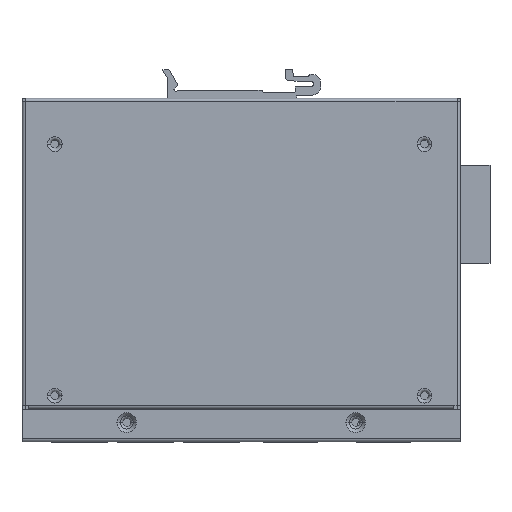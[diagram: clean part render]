
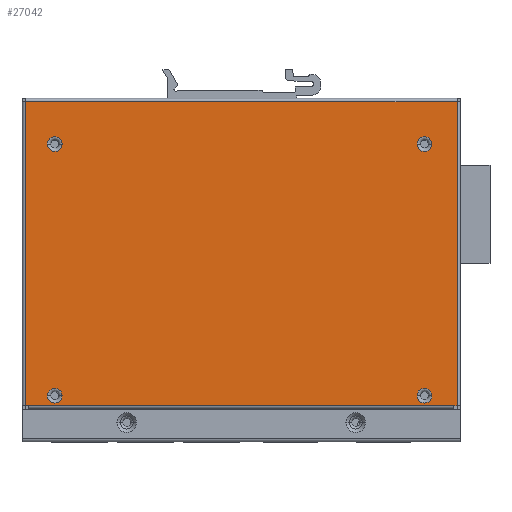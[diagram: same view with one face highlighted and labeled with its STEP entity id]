
A CAD part, front view. The second image highlights one B-rep face of the part: STEP entity #27042.
In plain terms, the highlighted planar face has unit normal (0, -1, 0).
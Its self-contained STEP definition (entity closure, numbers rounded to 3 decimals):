
#3817=DIRECTION('',(1.,0.,0.));
#3818=VECTOR('',#3817,132.);
#3819=CARTESIAN_POINT('',(-66.34,-1.,45.3));
#3820=LINE('',#3819,#3818);
#3825=CARTESIAN_POINT('',(55.66,-1.,32.3));
#3826=DIRECTION('',(0.,1.,0.));
#3827=DIRECTION('',(-1.,0.,0.));
#3828=AXIS2_PLACEMENT_3D('',#3825,#3826,#3827);
#3830=CARTESIAN_POINT('',(55.66,-1.,32.3));
#3831=DIRECTION('',(0.,1.,0.));
#3832=DIRECTION('',(1.,0.,0.));
#3833=AXIS2_PLACEMENT_3D('',#3830,#3831,#3832);
#3835=CARTESIAN_POINT('',(-57.34,-1.,32.3));
#3836=DIRECTION('',(0.,1.,0.));
#3837=DIRECTION('',(-1.,0.,0.));
#3838=AXIS2_PLACEMENT_3D('',#3835,#3836,#3837);
#3840=CARTESIAN_POINT('',(-57.34,-1.,32.3));
#3841=DIRECTION('',(0.,1.,0.));
#3842=DIRECTION('',(1.,0.,0.));
#3843=AXIS2_PLACEMENT_3D('',#3840,#3841,#3842);
#3845=CARTESIAN_POINT('',(55.66,-1.,-44.6));
#3846=DIRECTION('',(0.,1.,0.));
#3847=DIRECTION('',(-1.,0.,0.));
#3848=AXIS2_PLACEMENT_3D('',#3845,#3846,#3847);
#3850=CARTESIAN_POINT('',(55.66,-1.,-44.6));
#3851=DIRECTION('',(0.,1.,0.));
#3852=DIRECTION('',(1.,0.,0.));
#3853=AXIS2_PLACEMENT_3D('',#3850,#3851,#3852);
#3855=CARTESIAN_POINT('',(-57.34,-1.,-44.6));
#3856=DIRECTION('',(0.,1.,0.));
#3857=DIRECTION('',(-1.,0.,0.));
#3858=AXIS2_PLACEMENT_3D('',#3855,#3856,#3857);
#3860=CARTESIAN_POINT('',(-57.34,-1.,-44.6));
#3861=DIRECTION('',(0.,1.,0.));
#3862=DIRECTION('',(1.,0.,0.));
#3863=AXIS2_PLACEMENT_3D('',#3860,#3861,#3862);
#3869=DIRECTION('',(-1.,0.,0.));
#3870=VECTOR('',#3869,1.);
#3871=CARTESIAN_POINT('',(65.66,-1.,-47.7));
#3872=LINE('',#3871,#3870);
#3886=DIRECTION('',(0.,0.,-1.));
#3887=VECTOR('',#3886,93.);
#3888=CARTESIAN_POINT('',(65.66,-1.,45.3));
#3889=LINE('',#3888,#3887);
#11117=DIRECTION('',(-1.,0.,0.));
#11118=VECTOR('',#11117,1.);
#11119=CARTESIAN_POINT('',(-65.34,-1.,-47.7));
#11120=LINE('',#11119,#11118);
#11222=DIRECTION('',(-1.,0.,0.));
#11223=VECTOR('',#11222,130.);
#11224=CARTESIAN_POINT('',(64.66,-1.,-47.7));
#11225=LINE('',#11224,#11223);
#11481=DIRECTION('',(0.,0.,1.));
#11482=VECTOR('',#11481,93.);
#11483=CARTESIAN_POINT('',(-66.34,-1.,-47.7));
#11484=LINE('',#11483,#11482);
#13834=CARTESIAN_POINT('',(55.66,-1.,32.3));
#13835=DIRECTION('',(0.,-1.,0.));
#13836=DIRECTION('',(-1.,0.,0.));
#13837=AXIS2_PLACEMENT_3D('',#13834,#13835,#13836);
#13854=CARTESIAN_POINT('',(55.66,-1.,32.3));
#13855=DIRECTION('',(0.,-1.,0.));
#13856=DIRECTION('',(1.,0.,0.));
#13857=AXIS2_PLACEMENT_3D('',#13854,#13855,#13856);
#13918=CARTESIAN_POINT('',(-57.34,-1.,32.3));
#13919=DIRECTION('',(0.,-1.,0.));
#13920=DIRECTION('',(-1.,0.,0.));
#13921=AXIS2_PLACEMENT_3D('',#13918,#13919,#13920);
#13938=CARTESIAN_POINT('',(-57.34,-1.,32.3));
#13939=DIRECTION('',(0.,-1.,0.));
#13940=DIRECTION('',(1.,0.,0.));
#13941=AXIS2_PLACEMENT_3D('',#13938,#13939,#13940);
#14002=CARTESIAN_POINT('',(55.66,-1.,-44.6));
#14003=DIRECTION('',(0.,-1.,0.));
#14004=DIRECTION('',(-1.,0.,0.));
#14005=AXIS2_PLACEMENT_3D('',#14002,#14003,#14004);
#14022=CARTESIAN_POINT('',(55.66,-1.,-44.6));
#14023=DIRECTION('',(0.,-1.,0.));
#14024=DIRECTION('',(1.,0.,0.));
#14025=AXIS2_PLACEMENT_3D('',#14022,#14023,#14024);
#14086=CARTESIAN_POINT('',(-57.34,-1.,-44.6));
#14087=DIRECTION('',(0.,-1.,0.));
#14088=DIRECTION('',(-1.,0.,0.));
#14089=AXIS2_PLACEMENT_3D('',#14086,#14087,#14088);
#14106=CARTESIAN_POINT('',(-57.34,-1.,-44.6));
#14107=DIRECTION('',(0.,-1.,0.));
#14108=DIRECTION('',(1.,0.,0.));
#14109=AXIS2_PLACEMENT_3D('',#14106,#14107,#14108);
#17651=CARTESIAN_POINT('',(64.66,-1.,-47.7));
#17652=VERTEX_POINT('',#17651);
#17653=CARTESIAN_POINT('',(-65.34,-1.,-47.7));
#17654=VERTEX_POINT('',#17653);
#17697=CARTESIAN_POINT('',(65.66,-1.,-47.7));
#17698=VERTEX_POINT('',#17697);
#17733=CARTESIAN_POINT('',(-66.34,-1.,-47.7));
#17734=VERTEX_POINT('',#17733);
#17781=CARTESIAN_POINT('',(65.66,-1.,45.3));
#17782=VERTEX_POINT('',#17781);
#17783=CARTESIAN_POINT('',(-66.34,-1.,45.3));
#17784=VERTEX_POINT('',#17783);
#17835=CARTESIAN_POINT('',(57.91,-1.,32.299));
#17836=CARTESIAN_POINT('',(57.91,-1.,32.337));
#17837=VERTEX_POINT('',#17835);
#17838=VERTEX_POINT('',#17836);
#17839=CARTESIAN_POINT('',(53.41,-1.,32.301));
#17840=VERTEX_POINT('',#17839);
#17887=CARTESIAN_POINT('',(-55.09,-1.,32.299));
#17888=CARTESIAN_POINT('',(-55.09,-1.,32.337));
#17889=VERTEX_POINT('',#17887);
#17890=VERTEX_POINT('',#17888);
#17891=CARTESIAN_POINT('',(-59.59,-1.,32.301));
#17892=VERTEX_POINT('',#17891);
#17893=CARTESIAN_POINT('',(53.41,-1.,32.263));
#17894=VERTEX_POINT('',#17893);
#17941=CARTESIAN_POINT('',(57.91,-1.,-44.601));
#17942=CARTESIAN_POINT('',(57.91,-1.,-44.563));
#17943=VERTEX_POINT('',#17941);
#17944=VERTEX_POINT('',#17942);
#17945=CARTESIAN_POINT('',(53.41,-1.,-44.599));
#17946=VERTEX_POINT('',#17945);
#17947=CARTESIAN_POINT('',(-59.59,-1.,32.263));
#17948=VERTEX_POINT('',#17947);
#18003=CARTESIAN_POINT('',(-55.09,-1.,-44.601));
#18004=CARTESIAN_POINT('',(-55.09,-1.,-44.563));
#18005=VERTEX_POINT('',#18003);
#18006=VERTEX_POINT('',#18004);
#18007=CARTESIAN_POINT('',(-59.59,-1.,-44.599));
#18008=VERTEX_POINT('',#18007);
#18009=CARTESIAN_POINT('',(53.41,-1.,-44.637));
#18010=VERTEX_POINT('',#18009);
#18073=CARTESIAN_POINT('',(-59.59,-1.,-44.637));
#18074=VERTEX_POINT('',#18073);
#26984=CARTESIAN_POINT('',(0.,-1.,0.));
#26985=DIRECTION('',(0.,1.,0.));
#26986=DIRECTION('',(1.,0.,0.));
#26987=AXIS2_PLACEMENT_3D('',#26984,#26985,#26986);
#26988=PLANE('',#26987);
#26990=ORIENTED_EDGE('',*,*,#26989,.T.);
#26992=ORIENTED_EDGE('',*,*,#26991,.T.);
#26994=ORIENTED_EDGE('',*,*,#26993,.T.);
#26996=ORIENTED_EDGE('',*,*,#26995,.T.);
#26997=ORIENTED_EDGE('',*,*,#26969,.T.);
#26999=ORIENTED_EDGE('',*,*,#26998,.T.);
#27000=EDGE_LOOP('',(#26990,#26992,#26994,#26996,#26997,#26999));
#27001=FACE_OUTER_BOUND('',#27000,.F.);
#27003=ORIENTED_EDGE('',*,*,#27002,.F.);
#27005=ORIENTED_EDGE('',*,*,#27004,.T.);
#27007=ORIENTED_EDGE('',*,*,#27006,.F.);
#27009=ORIENTED_EDGE('',*,*,#27008,.T.);
#27010=EDGE_LOOP('',(#27003,#27005,#27007,#27009));
#27011=FACE_BOUND('',#27010,.F.);
#27013=ORIENTED_EDGE('',*,*,#27012,.F.);
#27015=ORIENTED_EDGE('',*,*,#27014,.T.);
#27017=ORIENTED_EDGE('',*,*,#27016,.F.);
#27019=ORIENTED_EDGE('',*,*,#27018,.T.);
#27020=EDGE_LOOP('',(#27013,#27015,#27017,#27019));
#27021=FACE_BOUND('',#27020,.F.);
#27023=ORIENTED_EDGE('',*,*,#27022,.F.);
#27025=ORIENTED_EDGE('',*,*,#27024,.T.);
#27027=ORIENTED_EDGE('',*,*,#27026,.F.);
#27029=ORIENTED_EDGE('',*,*,#27028,.T.);
#27030=EDGE_LOOP('',(#27023,#27025,#27027,#27029));
#27031=FACE_BOUND('',#27030,.F.);
#27033=ORIENTED_EDGE('',*,*,#27032,.F.);
#27035=ORIENTED_EDGE('',*,*,#27034,.T.);
#27037=ORIENTED_EDGE('',*,*,#27036,.F.);
#27039=ORIENTED_EDGE('',*,*,#27038,.T.);
#27040=EDGE_LOOP('',(#27033,#27035,#27037,#27039));
#27041=FACE_BOUND('',#27040,.F.);
#27042=ADVANCED_FACE('',(#27001,#27011,#27021,#27031,#27041),#26988,.F.);
#3829=CIRCLE('',#3828,2.25);
#3834=CIRCLE('',#3833,2.25);
#3839=CIRCLE('',#3838,2.25);
#3844=CIRCLE('',#3843,2.25);
#3849=CIRCLE('',#3848,2.25);
#3854=CIRCLE('',#3853,2.25);
#3859=CIRCLE('',#3858,2.25);
#3864=CIRCLE('',#3863,2.25);
#13838=CIRCLE('',#13837,2.25);
#13858=CIRCLE('',#13857,2.25);
#13922=CIRCLE('',#13921,2.25);
#13942=CIRCLE('',#13941,2.25);
#14006=CIRCLE('',#14005,2.25);
#14026=CIRCLE('',#14025,2.25);
#14090=CIRCLE('',#14089,2.25);
#14110=CIRCLE('',#14109,2.25);
#26969=EDGE_CURVE('',#17784,#17782,#3820,.T.);
#26989=EDGE_CURVE('',#17698,#17652,#3872,.T.);
#26991=EDGE_CURVE('',#17652,#17654,#11225,.T.);
#26993=EDGE_CURVE('',#17654,#17734,#11120,.T.);
#26995=EDGE_CURVE('',#17734,#17784,#11484,.T.);
#26998=EDGE_CURVE('',#17782,#17698,#3889,.T.);
#27002=EDGE_CURVE('',#17840,#17838,#3829,.T.);
#27004=EDGE_CURVE('',#17840,#17894,#13838,.T.);
#27006=EDGE_CURVE('',#17837,#17894,#3834,.T.);
#27008=EDGE_CURVE('',#17837,#17838,#13858,.T.);
#27012=EDGE_CURVE('',#17892,#17890,#3839,.T.);
#27014=EDGE_CURVE('',#17892,#17948,#13922,.T.);
#27016=EDGE_CURVE('',#17889,#17948,#3844,.T.);
#27018=EDGE_CURVE('',#17889,#17890,#13942,.T.);
#27022=EDGE_CURVE('',#17946,#17944,#3849,.T.);
#27024=EDGE_CURVE('',#17946,#18010,#14006,.T.);
#27026=EDGE_CURVE('',#17943,#18010,#3854,.T.);
#27028=EDGE_CURVE('',#17943,#17944,#14026,.T.);
#27032=EDGE_CURVE('',#18008,#18006,#3859,.T.);
#27034=EDGE_CURVE('',#18008,#18074,#14090,.T.);
#27036=EDGE_CURVE('',#18005,#18074,#3864,.T.);
#27038=EDGE_CURVE('',#18005,#18006,#14110,.T.);
